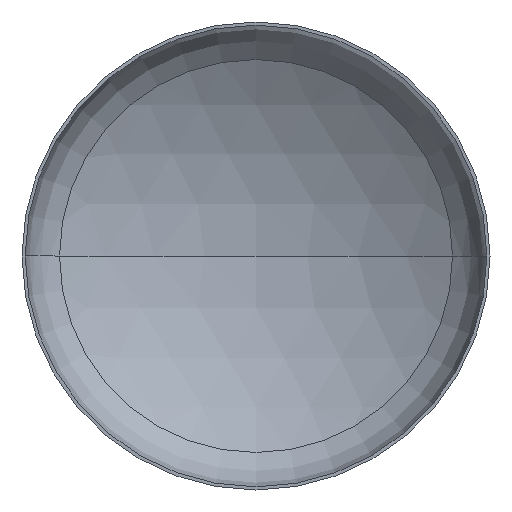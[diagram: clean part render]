
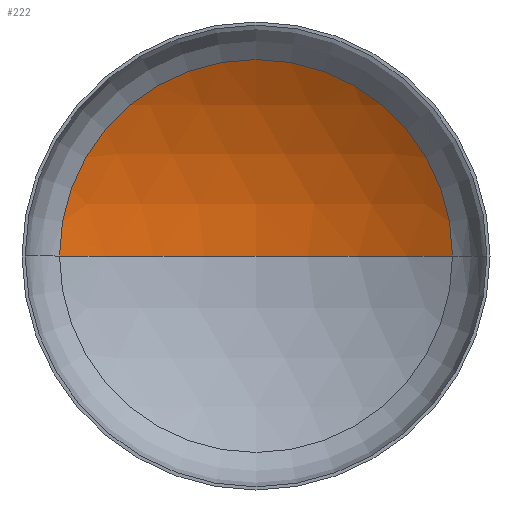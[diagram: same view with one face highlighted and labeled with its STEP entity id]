
A CAD part, front view. The second image highlights one B-rep face of the part: STEP entity #222.
In plain terms, the highlighted spherical face has radius 5600 mm.
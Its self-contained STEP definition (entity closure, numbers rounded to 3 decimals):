
#15 = CARTESIAN_POINT ( 'NONE',  ( 0., -3697.599, 0. ) ) ;
#26 = DIRECTION ( 'NONE',  ( 0., 0., -1. ) ) ;
#29 = ORIENTED_EDGE ( 'NONE', *, *, #175, .F. ) ;
#34 = VERTEX_POINT ( 'NONE', #256 ) ;
#44 = AXIS2_PLACEMENT_3D ( 'NONE', #15, #26, #188 ) ;
#75 = VERTEX_POINT ( 'NONE', #230 ) ;
#85 = EDGE_LOOP ( 'NONE', ( #29, #221, #144 ) ) ;
#87 = AXIS2_PLACEMENT_3D ( 'NONE', #336, #171, #185 ) ;
#93 = AXIS2_PLACEMENT_3D ( 'NONE', #243, #292, #390 ) ;
#101 = AXIS2_PLACEMENT_3D ( 'NONE', #214, #313, #134 ) ;
#134 = DIRECTION ( 'NONE',  ( 1., 0., 0. ) ) ;
#144 = ORIENTED_EDGE ( 'NONE', *, *, #170, .T. ) ;
#170 = EDGE_CURVE ( 'NONE', #34, #75, #411, .T. ) ;
#171 = DIRECTION ( 'NONE',  ( 0., 0., 1. ) ) ;
#174 = EDGE_CURVE ( 'NONE', #233, #34, #367, .T. ) ;
#175 = EDGE_CURVE ( 'NONE', #233, #75, #255, .T. ) ;
#185 = DIRECTION ( 'NONE',  ( 1., 0., 0. ) ) ;
#188 = DIRECTION ( 'NONE',  ( -1., 0., 0. ) ) ;
#214 = CARTESIAN_POINT ( 'NONE',  ( 0., 1069.338, 0. ) ) ;
#221 = ORIENTED_EDGE ( 'NONE', *, *, #174, .T. ) ;
#222 = ADVANCED_FACE ( 'NONE', ( #250 ), #402, .F. ) ;
#230 = CARTESIAN_POINT ( 'NONE',  ( -2938.761, 1069.338, 0. ) ) ;
#233 = VERTEX_POINT ( 'NONE', #268 ) ;
#243 = CARTESIAN_POINT ( 'NONE',  ( 0., -3697.599, 0. ) ) ;
#250 = FACE_OUTER_BOUND ( 'NONE', #85, .T. ) ;
#255 = CIRCLE ( 'NONE', #87, 5600. ) ;
#256 = CARTESIAN_POINT ( 'NONE',  ( 2938.761, 1069.338, 0. ) ) ;
#268 = CARTESIAN_POINT ( 'NONE',  ( 0., 1902.401, 0. ) ) ;
#292 = DIRECTION ( 'NONE',  ( 0., 0., -1. ) ) ;
#313 = DIRECTION ( 'NONE',  ( 0., -1., 0. ) ) ;
#336 = CARTESIAN_POINT ( 'NONE',  ( 0., -3697.599, 0. ) ) ;
#367 = CIRCLE ( 'NONE', #93, 5600. ) ;
#390 = DIRECTION ( 'NONE',  ( -1., 0., 0. ) ) ;
#402 = SPHERICAL_SURFACE ( 'NONE', #44, 5600. ) ;
#411 = CIRCLE ( 'NONE', #101, 2938.761 ) ;
